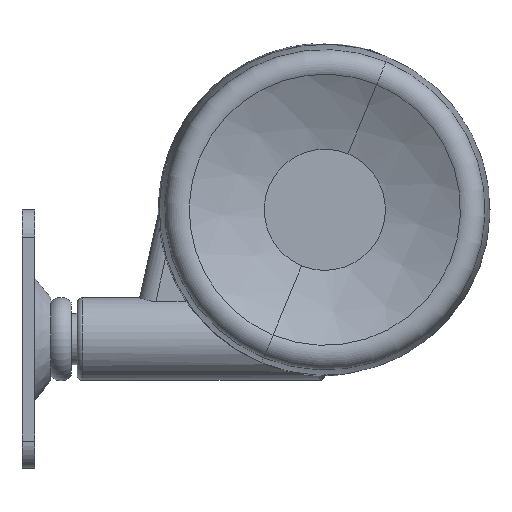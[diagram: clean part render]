
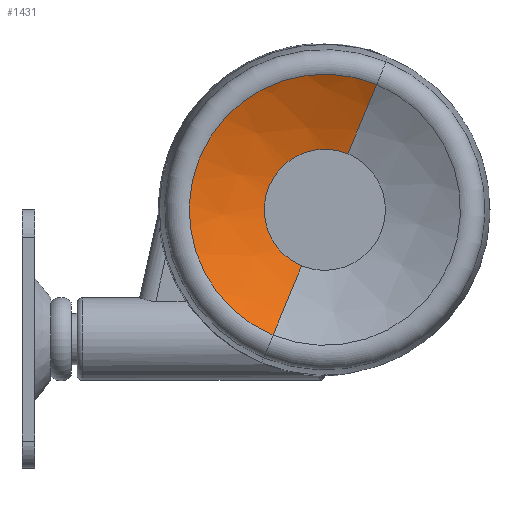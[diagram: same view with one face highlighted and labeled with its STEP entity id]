
A CAD part, left-side view. The second image highlights one B-rep face of the part: STEP entity #1431.
In plain terms, the highlighted spherical face has radius 50 mm.
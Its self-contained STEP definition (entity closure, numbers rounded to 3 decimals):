
#3 = VERTEX_POINT ( 'NONE', #1947 ) ;
#63 = DIRECTION ( 'NONE',  ( 0., 0., -1. ) ) ;
#99 = DIRECTION ( 'NONE',  ( 0., -1., 0. ) ) ;
#145 = CIRCLE ( 'NONE', #1590, 50. ) ;
#308 = AXIS2_PLACEMENT_3D ( 'NONE', #1214, #1026, #1979 ) ;
#350 = CARTESIAN_POINT ( 'NONE',  ( 64.124, 0., 0. ) ) ;
#351 = CIRCLE ( 'NONE', #475, 11. ) ;
#419 = CARTESIAN_POINT ( 'NONE',  ( 64.124, 0., 0. ) ) ;
#475 = AXIS2_PLACEMENT_3D ( 'NONE', #2252, #2113, #574 ) ;
#547 = CARTESIAN_POINT ( 'NONE',  ( 64.124, 0., 0. ) ) ;
#572 = ORIENTED_EDGE ( 'NONE', *, *, #659, .F. ) ;
#574 = DIRECTION ( 'NONE',  ( 0., 0., -1. ) ) ;
#582 = CIRCLE ( 'NONE', #2150, 50. ) ;
#585 = DIRECTION ( 'NONE',  ( 0., 0., 1. ) ) ;
#659 = EDGE_CURVE ( 'NONE', #2333, #881, #582, .T. ) ;
#759 = CARTESIAN_POINT ( 'NONE',  ( 20.611, 24.63, 0. ) ) ;
#768 = DIRECTION ( 'NONE',  ( 1., 0., 0. ) ) ;
#781 = AXIS2_PLACEMENT_3D ( 'NONE', #1779, #2390, #99 ) ;
#881 = VERTEX_POINT ( 'NONE', #2376 ) ;
#892 = CIRCLE ( 'NONE', #308, 11. ) ;
#919 = FACE_OUTER_BOUND ( 'NONE', #1169, .T. ) ;
#1015 = CIRCLE ( 'NONE', #781, 24.63 ) ;
#1026 = DIRECTION ( 'NONE',  ( 1., 0., 0. ) ) ;
#1169 = EDGE_LOOP ( 'NONE', ( #572, #1980, #2204, #1310, #1740 ) ) ;
#1214 = CARTESIAN_POINT ( 'NONE',  ( 15.349, 0., 0. ) ) ;
#1246 = EDGE_CURVE ( 'NONE', #2052, #2333, #1015, .T. ) ;
#1310 = ORIENTED_EDGE ( 'NONE', *, *, #1679, .F. ) ;
#1411 = EDGE_CURVE ( 'NONE', #2052, #3, #145, .T. ) ;
#1425 = AXIS2_PLACEMENT_3D ( 'NONE', #547, #1666, #1822 ) ;
#1431 = ADVANCED_FACE ( 'NONE', ( #919 ), #2224, .F. ) ;
#1477 = CARTESIAN_POINT ( 'NONE',  ( 20.611, -24.63, 0. ) ) ;
#1573 = VERTEX_POINT ( 'NONE', #2321 ) ;
#1590 = AXIS2_PLACEMENT_3D ( 'NONE', #350, #585, #768 ) ;
#1666 = DIRECTION ( 'NONE',  ( 0., 0., -1. ) ) ;
#1679 = EDGE_CURVE ( 'NONE', #1573, #3, #892, .T. ) ;
#1740 = ORIENTED_EDGE ( 'NONE', *, *, #2327, .F. ) ;
#1752 = DIRECTION ( 'NONE',  ( 0., 1., 0. ) ) ;
#1779 = CARTESIAN_POINT ( 'NONE',  ( 20.611, 0., 0. ) ) ;
#1822 = DIRECTION ( 'NONE',  ( 0., 1., 0. ) ) ;
#1947 = CARTESIAN_POINT ( 'NONE',  ( 15.349, 11., 0. ) ) ;
#1979 = DIRECTION ( 'NONE',  ( 0., 0., -1. ) ) ;
#1980 = ORIENTED_EDGE ( 'NONE', *, *, #1246, .F. ) ;
#2052 = VERTEX_POINT ( 'NONE', #759 ) ;
#2113 = DIRECTION ( 'NONE',  ( 1., 0., 0. ) ) ;
#2150 = AXIS2_PLACEMENT_3D ( 'NONE', #419, #63, #1752 ) ;
#2204 = ORIENTED_EDGE ( 'NONE', *, *, #1411, .T. ) ;
#2224 = SPHERICAL_SURFACE ( 'NONE', #1425, 50. ) ;
#2252 = CARTESIAN_POINT ( 'NONE',  ( 15.349, 0., 0. ) ) ;
#2321 = CARTESIAN_POINT ( 'NONE',  ( 15.349, 0., -11. ) ) ;
#2327 = EDGE_CURVE ( 'NONE', #881, #1573, #351, .T. ) ;
#2333 = VERTEX_POINT ( 'NONE', #1477 ) ;
#2376 = CARTESIAN_POINT ( 'NONE',  ( 15.349, -11., 0. ) ) ;
#2390 = DIRECTION ( 'NONE',  ( -1., 0., 0. ) ) ;
